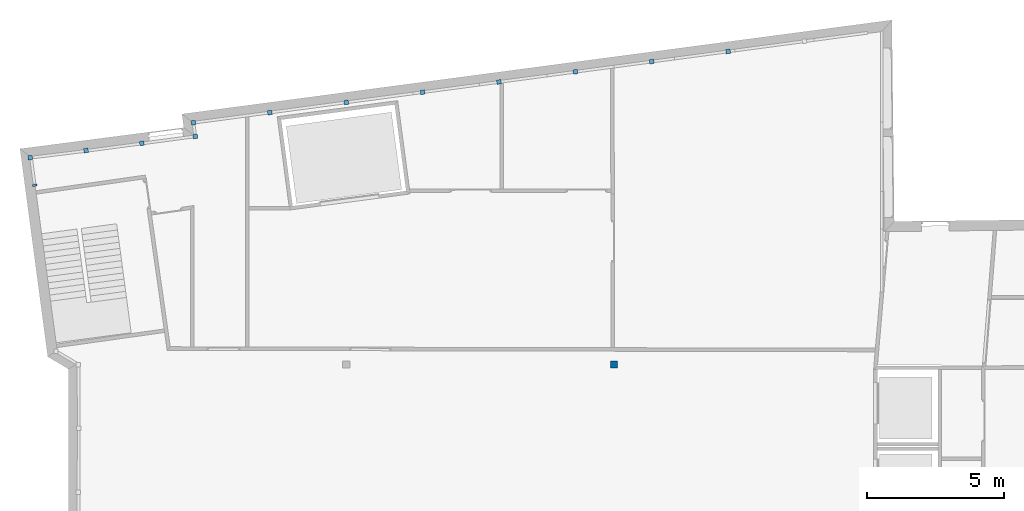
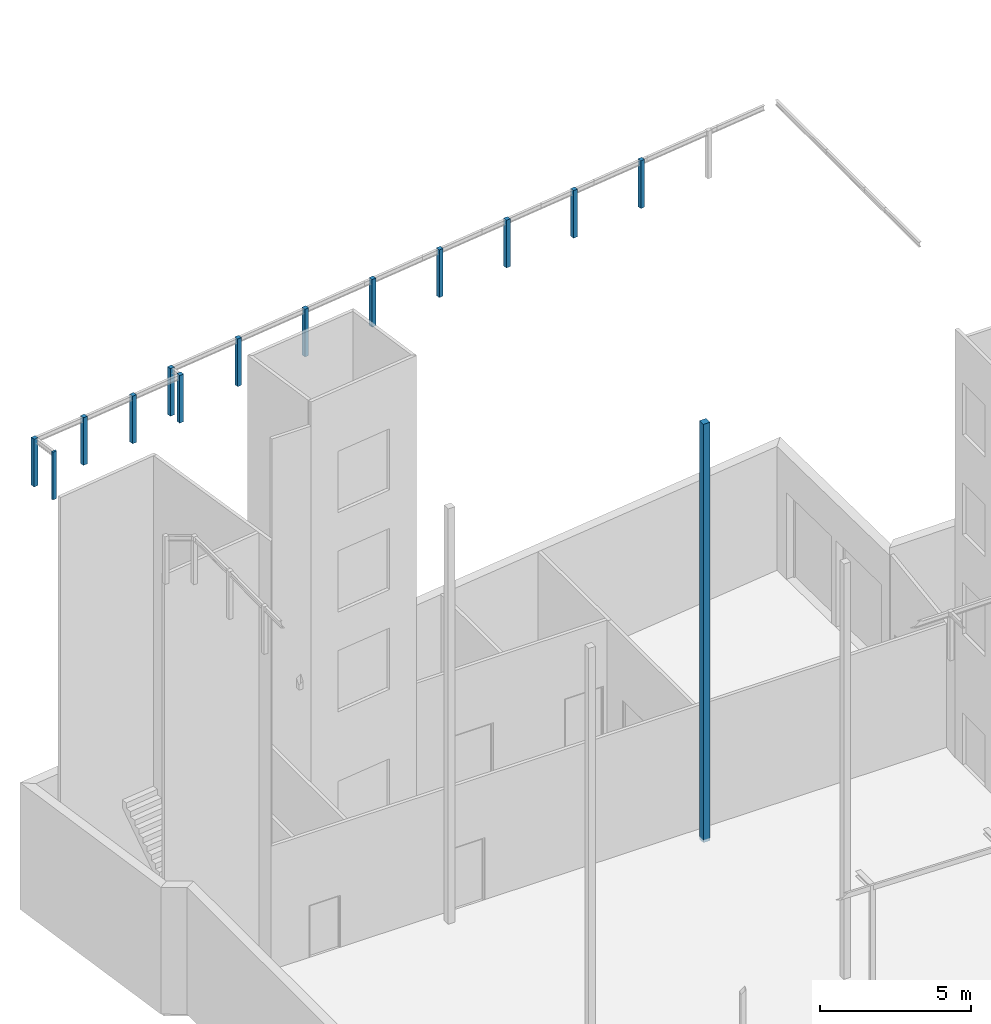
# One storey, part 2 of 40: 14 columns.
"""IFC2X3 building model written with IfcOpenShell, lengths in metres."""

from ifc_helpers import new_model, entity, si_unit, converted_unit, money_unit, direction, frame, origin_with_axes, origin_2d_with_axis, place, context, subcontext, project, spatial, rectangle, extrude, material, type_object, element, save


model = new_model("IFC2X3")

# Units and contexts
model_context = context("Model", 3, precision=1e-05, world=origin_with_axes(), true_north=direction((0.0, 1.0)))
body_context = subcontext(model_context, "Body", "Model", "MODEL_VIEW")
ifc_project = project(units=[si_unit("LENGTHUNIT", "METRE"), si_unit("AREAUNIT", "SQUARE_METRE"), si_unit("VOLUMEUNIT", "CUBIC_METRE"), converted_unit("PLANEANGLEUNIT", "DEGREE", entity("IfcPlaneAngleMeasure", 0.0174532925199), si_unit("PLANEANGLEUNIT", "RADIAN"), dimensions=[0, 0, 0, 0, 0, 0, 0]), si_unit("SOLIDANGLEUNIT", "STERADIAN"), money_unit("EUR"), converted_unit("TIMEUNIT", "Year", entity("IfcTimeMeasure", 31556926.0), si_unit("TIMEUNIT", "SECOND"), dimensions=[0, 0, 0, 0, 0, 0, 0]), si_unit("MASSUNIT", "GRAM"), si_unit("THERMODYNAMICTEMPERATUREUNIT", "DEGREE_CELSIUS"), si_unit("LUMINOUSINTENSITYUNIT", "LUMEN")], contexts=[model_context])

# Site, building, storey
site_placement = place(None, origin_with_axes())
site = spatial("IfcSite", under=ifc_project, at=site_placement, Name="Undefined", CompositionType="ELEMENT")
building_placement = place(site_placement, origin_with_axes())
building = spatial("IfcBuilding", under=site, at=building_placement, Name="Undefined", CompositionType="ELEMENT")
storey_placement = place(building_placement, origin_with_axes())
storey = spatial("IfcBuildingStorey", under=building, at=storey_placement, Name="Rez de chauss\x8ee", CompositionType="ELEMENT", Elevation=0.0)

# Columns
ifc_material_1 = material(Name="STEEL/S235JRG2 3386696625")
column_type_1 = type_object("IfcColumnType", Name="HEB160", PredefinedType="NOTDEFINED")
for number, where, z_axis, x_axis, name in (
    (1, (0.27661169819, 26.3950959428, 17.2), (0.0, 0.0, 1.0), (0.128329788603, -0.991731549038, 0.0), "Column"),
    (2, (4.18730000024, 27.4052999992, 17.2), (0.0, 0.0, 1.0), (0.132262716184, -0.991214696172, 0.0), "Column"),
    (3, (6.96864980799, 27.7764147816, 17.2), (0.0, 0.0, 1.0), (0.132247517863, -0.991216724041, 0.0), "Column"),
    (4, (4.25342815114, 26.9096941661, 17.2), (0.0, 0.0, 1.0), (0.128324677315, -0.991732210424, 0.0), "Column"),
    (5, (2.30964339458, 26.6581696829, 17.2), (0.0, 0.0, 1.0), (0.155062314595, -0.987904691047, 0.0), "Column"),
    (6, (-1.75651428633, 26.1320100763, 17.2), (0.0, 0.0, 1.0), (0.128329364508, -0.991731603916, 0.0), "Column"),
):
    element("IfcColumn", number, at=place(storey_placement, frame(where, z_axis=z_axis, x_axis=x_axis)), inside=storey, type_object=column_type_1, material=ifc_material_1, Name=name, ObjectType="COLUMN", context=body_context, shape_type="SweptSolid", body=[
        extrude(rectangle(XDim=0.16, YDim=0.16, at=origin_2d_with_axis()), origin_with_axes(), (0.0, 0.0, 1.0), 1.925),
    ])
ifc_material_2 = material(Name="M\x8etal - Acier")
column_type_2 = type_object("IfcColumnType", Name="HEB260", PredefinedType="NOTDEFINED")
column_1_placement = place(storey_placement, frame((19.5000000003, 18.5999999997, 0.0), z_axis=(0.0, 0.0, 1.0), x_axis=(-1.0, 0.0, 0.0)))
element("IfcColumn", 7, at=column_1_placement, inside=storey, type_object=column_type_2, material=ifc_material_2, Name="POTEAU", ObjectType="260*260", context=body_context, shape_type="SweptSolid", body=[
    extrude(rectangle(XDim=0.26, YDim=0.26, at=origin_2d_with_axis()), origin_with_axes(), (0.0, 0.0, 1.0), 16.9),
])
column_type_3 = type_object("IfcColumnType", Name="STEEL/S235JRG2 3386696625 160 x 160", PredefinedType="NOTDEFINED")
for number, where, z_axis, x_axis, name in (
    (8, (20.8754007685, 29.6319908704, 17.2), (0.0, 0.0, 1.0), (0.132247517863, -0.991216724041, 0.0), "Column"),
    (9, (18.0940505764, 29.2608756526, 17.2), (0.0, 0.0, 1.0), (0.132247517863, -0.991216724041, 0.0), "Column"),
    (10, (12.5313501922, 28.5186452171, 17.2), (0.0, 0.0, 1.0), (0.132247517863, -0.991216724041, 0.0), "Column"),
    (11, (9.7500000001, 28.1475299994, 17.2), (0.0, 0.0, 1.0), (0.132247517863, -0.991216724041, 0.0), "Column"),
    (12, (15.3127003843, 28.8897604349, 17.2), (0.0, 0.0, 1.0), (0.132247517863, -0.991216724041, 0.0), "Column"),
    (13, (23.6567509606, 30.0031060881, 17.2), (0.0, 0.0, 1.0), (0.132247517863, -0.991216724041, 0.0), "Column"),
):
    element("IfcColumn", number, at=place(storey_placement, frame(where, z_axis=z_axis, x_axis=x_axis)), inside=storey, type_object=column_type_3, material=ifc_material_1, Name=name, ObjectType="COLUMN", context=body_context, shape_type="SweptSolid", body=[
        extrude(rectangle(XDim=0.16, YDim=0.16, at=origin_2d_with_axis()), origin_with_axes(), (0.0, 0.0, 1.0), 1.925),
    ])
column_type_4 = type_object("IfcColumnType", Name="STEEL/S235JRG2 3386696625 80 x 160", PredefinedType="NOTDEFINED")
column_2_placement = place(storey_placement, frame((-1.59280296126, 25.1318867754, 17.1999994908), z_axis=(0.0, 0.0, 1.0), x_axis=(0.132256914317, -0.991215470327, 0.0)))
element("IfcColumn", 14, at=column_2_placement, inside=storey, type_object=column_type_4, material=ifc_material_1, Name="Column", ObjectType="COLUMN", context=body_context, shape_type="SweptSolid", body=[
    extrude(rectangle(XDim=0.08, YDim=0.16, at=origin_2d_with_axis()), origin_with_axes(), (0.0, 0.0, 1.0), 1.925),
])

save(model, "model.ifc")
